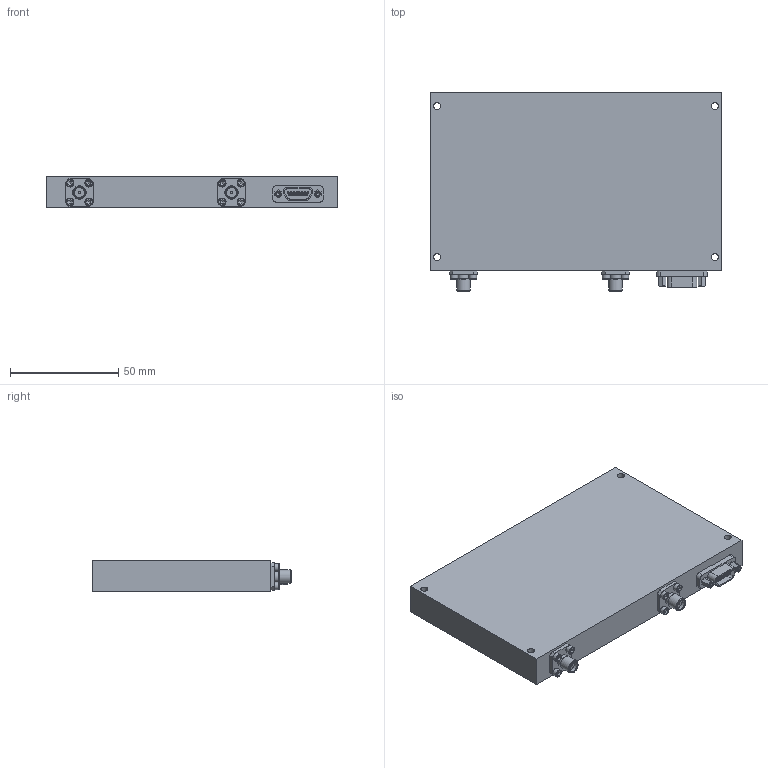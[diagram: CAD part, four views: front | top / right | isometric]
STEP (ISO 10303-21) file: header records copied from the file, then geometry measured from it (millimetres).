
FILE_DESCRIPTION((''),'2;1');
FILE_NAME('\\SERPENTOR\Engineering\ENG\Models\TTRMxxxx\TTRM1008\Inventor\OL_103.stp','2015-06-11T11:03:44',('dcampbell'),(''),'Autodesk Inventor 2013','Autodesk Inventor 2013','');
FILE_SCHEMA(('AUTOMOTIVE_DESIGN { 1 0 10303 214 1 1 1 1 }'));
Length unit declared in the file: inch
Products named in the file (6): OL_103; 410-012; Hexagon Socket Head Cap Screw - Inch No. 2 - 56 UNC - 3/16; 400-072; M7-320-9505-033
Assembly tree (14 placements, depth 2):
  OL_103
    OL_103
    410-012  x2
    Hexagon Socket Head Cap Screw - Inch No. 2 - 56 UNC - 3/16  x8
    400-072
    M7-320-9505-033  x2
Bounding box: 134.62 x 92.08 x 14.48 mm (x, y, z)
Volume: 162659.1 mm3; surface area: 32700.3 mm2
Topology: 14 solids, 14 shells, 344 faces, 712 edges, 464 vertices
Faces by surface type: plane 196, cylinder 108, cone 24, torus 16
Full cylindrical faces by diameter (mm): 0.635 x15, 0.737 x2, 0.889 x15, 1.016 x4, 1.245 x2, 1.27 x2, 1.295 x2, 1.702 x2, 2.184 x10, 2.438 x2, 2.54 x2, 2.591 x8, 3.251 x4, 3.556 x8, 4.064 x2, 4.597 x2, 5.486 x4, 6.35 x2
Entity records: 5057 total; most frequent: DIRECTION 890, CARTESIAN_POINT 786, ORIENTED_EDGE 628, AXIS2_PLACEMENT_3D 372, EDGE_LOOP 326, EDGE_CURVE 314, VERTEX_POINT 250, FACE_OUTER_BOUND 190
